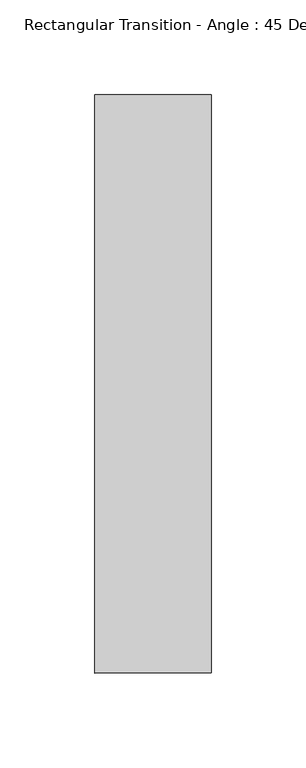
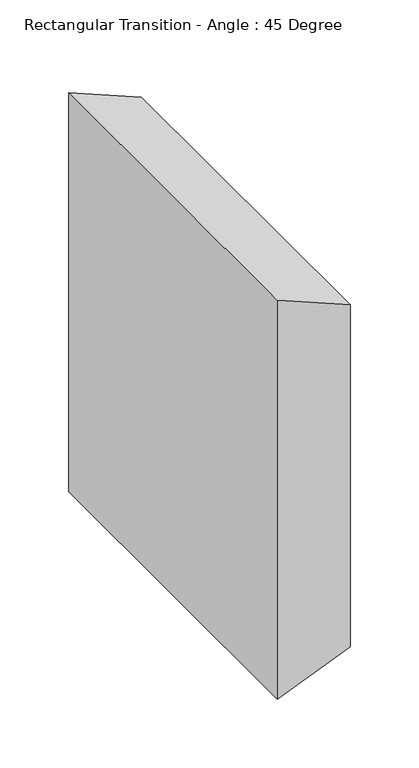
"""IFC4 building model written with IfcOpenShell, lengths in millimetres: duct fitting geometry, Rectangular Transition - Angle : 45 Degree."""

from ifc_helpers import new_model, si_unit, origin, place, context, project, spatial, faceted_brep, source, transform, mapped, element, save


def rectangular_transition_angle_45_degree_91b25721(model_context):
    return source(origin(), model_context, "Body", "Brep", [
        faceted_brep([(61.3210245, -152.3145916, 152.4), (61.3210245, -152.3145916, -152.4), (61.3210245, 152.4854084, -152.4), (61.3210245, 152.4854084, 152.4), (0.0, -152.4, 177.8), (0.0, 152.4, 177.8), (0.0, 152.4, -177.8), (0.0, -152.4, -177.8)], [[[0, 1, 2, 3]], [[4, 5, 6, 7]], [[4, 7, 1, 0]], [[7, 6, 2, 1]], [[6, 5, 3, 2]], [[5, 4, 0, 3]]]),
    ])


if __name__ == "__main__":
    model = new_model("IFC4")
    model_context = context("Model", 3, world=origin())
    ifc_project = project(units=[si_unit("LENGTHUNIT", "METRE", prefix="MILLI")], contexts=[model_context])
    site = spatial("IfcSite", under=ifc_project)
    building = spatial("IfcBuilding", under=site)
    placement = place(None, origin())
    rectangular_transition_angle_45_degree_shape = rectangular_transition_angle_45_degree_91b25721(model_context)
    element("IfcDuctFitting", 1, ObjectType="Rectangular Transition - Angle : 45 Degree", at=placement, inside=building, context=model_context, shape_type="MappedRepresentation", body=[
        mapped(rectangular_transition_angle_45_degree_shape, transform((0.0, 0.0, 0.0), x_axis=(1.0, 0.0, 0.0), y_axis=(0.0, 1.0, 0.0), z_axis=(0.0, 0.0, 1.0))),
    ])
    save(model, "model.ifc")
